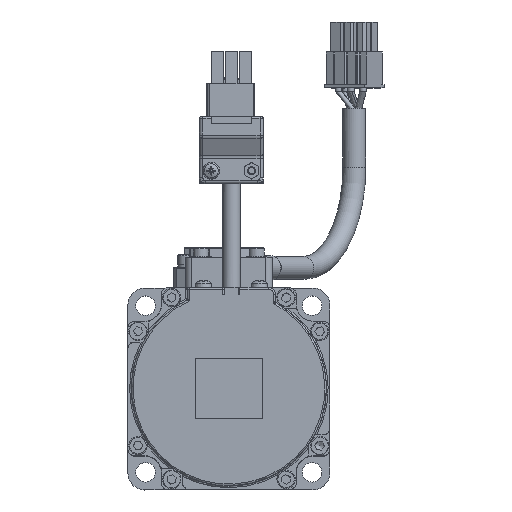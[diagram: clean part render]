
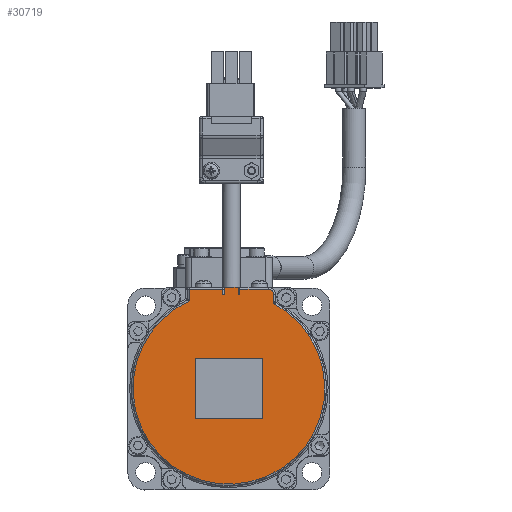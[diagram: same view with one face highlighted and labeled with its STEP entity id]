
A CAD part, top view. The second image highlights one B-rep face of the part: STEP entity #30719.
In plain terms, the highlighted planar face has unit normal (0, 0, 1).
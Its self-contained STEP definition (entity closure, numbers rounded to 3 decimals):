
#989=PLANE('',#33059);
#1446=FACE_BOUND('',#11049,.T.);
#1657=CIRCLE('',#31571,28.5);
#2704=LINE('',#44104,#5355);
#2714=LINE('',#44143,#5365);
#2761=LINE('',#44798,#5412);
#2763=LINE('',#44802,#5414);
#2765=LINE('',#44806,#5416);
#2767=LINE('',#44809,#5418);
#2768=LINE('',#44813,#5419);
#2769=LINE('',#44815,#5420);
#2771=LINE('',#44819,#5422);
#2773=LINE('',#44840,#5424);
#2774=LINE('',#44845,#5425);
#2785=LINE('',#45021,#5436);
#2802=LINE('',#45183,#5453);
#4342=LINE('',#52633,#6993);
#4343=LINE('',#52634,#6994);
#5355=VECTOR('',#34330,2.);
#5365=VECTOR('',#34356,5.);
#5412=VECTOR('',#34569,20.);
#5414=VECTOR('',#34573,18.);
#5416=VECTOR('',#34577,20.);
#5418=VECTOR('',#34581,18.);
#5419=VECTOR('',#34586,5.);
#5420=VECTOR('',#34589,1.5);
#5422=VECTOR('',#34593,8.5);
#5424=VECTOR('',#34599,3.535);
#5425=VECTOR('',#34606,1.5);
#5436=VECTOR('',#34671,10.);
#5453=VECTOR('',#34736,2.767);
#6993=VECTOR('',#39262,2.);
#6994=VECTOR('',#39263,4.);
#9388=FACE_OUTER_BOUND('',#11048,.T.);
#11048=EDGE_LOOP('',(#24887,#24888,#24889,#24890,#24891,#24892,#24893,#24894,
#24895,#24896,#24897,#24898,#24899));
#11049=EDGE_LOOP('',(#24900,#24901,#24902,#24903));
#11784=B_SPLINE_CURVE_WITH_KNOTS('',3,(#45150,#45151,#45152,#45153,#45154,
#45155,#45156,#45157,#45158,#45159,#45160,#45161,#45162,#45163,#45164,#45165,
#45166,#45167,#45168,#45169,#45170,#45171,#45172,#45173,#45174,#45175,#45176,
#45177,#45178,#45179,#45180),.UNSPECIFIED.,.F.,.F.,(4,1,1,1,1,1,1,1,1,1,
1,1,1,1,1,1,1,1,1,1,1,1,1,1,1,1,1,1,4),(0.,0.017,0.034,
0.051,0.069,0.086,0.103,
0.12,0.137,0.154,0.171,
0.189,0.206,0.223,0.24,
0.305,0.37,0.435,0.5,
0.565,0.63,0.695,0.76,
0.82,0.88,0.898,0.94,
0.977,1.),.UNSPECIFIED.);
#12246=VERTEX_POINT('',#44101);
#12247=VERTEX_POINT('',#44103);
#12256=VERTEX_POINT('',#44139);
#12258=VERTEX_POINT('',#44142);
#12360=VERTEX_POINT('',#44760);
#12363=VERTEX_POINT('',#44795);
#12364=VERTEX_POINT('',#44797);
#12365=VERTEX_POINT('',#44801);
#12366=VERTEX_POINT('',#44805);
#12367=VERTEX_POINT('',#44811);
#12368=VERTEX_POINT('',#44818);
#12371=VERTEX_POINT('',#44825);
#12372=VERTEX_POINT('',#44839);
#12373=VERTEX_POINT('',#44843);
#12385=VERTEX_POINT('',#44983);
#12399=VERTEX_POINT('',#45149);
#13925=VERTEX_POINT('',#52632);
#15181=EDGE_CURVE('',#12247,#12246,#2704,.F.);
#15196=EDGE_CURVE('',#12256,#12258,#2714,.F.);
#15320=EDGE_CURVE('',#12363,#12364,#2761,.T.);
#15322=EDGE_CURVE('',#12364,#12365,#2763,.F.);
#15324=EDGE_CURVE('',#12365,#12366,#2765,.F.);
#15326=EDGE_CURVE('',#12366,#12363,#2767,.T.);
#15328=EDGE_CURVE('',#12367,#12246,#2768,.F.);
#15329=EDGE_CURVE('',#12258,#12360,#2769,.T.);
#15331=EDGE_CURVE('',#12360,#12368,#2771,.F.);
#15335=EDGE_CURVE('',#12371,#12372,#2773,.T.);
#15338=EDGE_CURVE('',#12373,#12367,#2774,.F.);
#15368=EDGE_CURVE('',#12372,#12373,#2785,.F.);
#15400=EDGE_CURVE('',#12368,#12399,#11784,.T.);
#15402=EDGE_CURVE('',#12399,#12385,#2802,.F.);
#15410=EDGE_CURVE('',#12385,#12371,#1657,.T.);
#17776=EDGE_CURVE('',#12256,#13925,#4342,.T.);
#17777=EDGE_CURVE('',#12247,#13925,#4343,.F.);
#24887=ORIENTED_EDGE('',*,*,#15328,.F.);
#24888=ORIENTED_EDGE('',*,*,#15338,.F.);
#24889=ORIENTED_EDGE('',*,*,#15368,.F.);
#24890=ORIENTED_EDGE('',*,*,#15335,.F.);
#24891=ORIENTED_EDGE('',*,*,#15410,.F.);
#24892=ORIENTED_EDGE('',*,*,#15402,.F.);
#24893=ORIENTED_EDGE('',*,*,#15400,.F.);
#24894=ORIENTED_EDGE('',*,*,#15331,.F.);
#24895=ORIENTED_EDGE('',*,*,#15329,.F.);
#24896=ORIENTED_EDGE('',*,*,#15196,.F.);
#24897=ORIENTED_EDGE('',*,*,#17776,.T.);
#24898=ORIENTED_EDGE('',*,*,#17777,.F.);
#24899=ORIENTED_EDGE('',*,*,#15181,.T.);
#24900=ORIENTED_EDGE('',*,*,#15324,.F.);
#24901=ORIENTED_EDGE('',*,*,#15322,.F.);
#24902=ORIENTED_EDGE('',*,*,#15320,.F.);
#24903=ORIENTED_EDGE('',*,*,#15326,.F.);
#30719=ADVANCED_FACE('',(#9388,#1446),#989,.T.);
#31571=AXIS2_PLACEMENT_3D('',#45195,#34752,#34753);
#33059=AXIS2_PLACEMENT_3D('',#52631,#39260,#39261);
#34330=DIRECTION('',(0.,1.,0.));
#34356=DIRECTION('',(-1.,0.,0.));
#34569=DIRECTION('',(-1.,0.,0.));
#34573=DIRECTION('',(0.,1.,0.));
#34577=DIRECTION('',(-1.,0.,0.));
#34581=DIRECTION('',(0.,1.,0.));
#34586=DIRECTION('',(-1.,0.,0.));
#34589=DIRECTION('',(0.,1.,0.));
#34593=DIRECTION('',(-1.,0.,0.));
#34599=DIRECTION('',(0.,1.,0.));
#34606=DIRECTION('',(0.,1.,0.));
#34671=DIRECTION('',(-1.,0.,0.));
#34736=DIRECTION('',(0.,1.,0.));
#34752=DIRECTION('center_axis',(0.,0.,
-1.));
#34753=DIRECTION('ref_axis',(-1.,0.,0.));
#39260=DIRECTION('center_axis',(0.,0.,
1.));
#39261=DIRECTION('ref_axis',(0.,1.,0.));
#39262=DIRECTION('',(0.,1.,0.));
#39263=DIRECTION('',(-1.,0.,0.));
#44101=CARTESIAN_POINT('',(-2.063,-3.499,92.287));
#44103=CARTESIAN_POINT('',(-2.063,-1.538,92.287));
#44104=CARTESIAN_POINT('',(-2.063,-3.538,92.287));
#44139=CARTESIAN_POINT('',(1.937,-3.499,92.287));
#44142=CARTESIAN_POINT('',(2.437,-3.499,92.287));
#44143=CARTESIAN_POINT('',(2.437,-3.499,92.287));
#44760=CARTESIAN_POINT('',(2.437,-1.999,92.287));
#44795=CARTESIAN_POINT('',(9.187,-22.499,92.287));
#44797=CARTESIAN_POINT('',(-10.813,-22.499,92.287));
#44798=CARTESIAN_POINT('',(9.187,-22.499,92.287));
#44801=CARTESIAN_POINT('',(-10.813,-40.499,92.287));
#44802=CARTESIAN_POINT('',(-10.813,-40.499,92.287));
#44805=CARTESIAN_POINT('',(9.187,-40.499,92.287));
#44806=CARTESIAN_POINT('',(9.187,-40.499,92.287));
#44809=CARTESIAN_POINT('',(9.187,-40.499,92.287));
#44811=CARTESIAN_POINT('',(-2.563,-3.499,92.287));
#44813=CARTESIAN_POINT('',(2.437,-3.499,92.287));
#44815=CARTESIAN_POINT('',(2.437,-3.499,92.287));
#44818=CARTESIAN_POINT('',(10.937,-1.999,92.287));
#44819=CARTESIAN_POINT('',(10.937,-1.999,92.287));
#44825=CARTESIAN_POINT('',(-12.563,-5.534,92.287));
#44839=CARTESIAN_POINT('',(-12.563,-1.999,92.287));
#44840=CARTESIAN_POINT('',(-12.563,-5.534,92.287));
#44843=CARTESIAN_POINT('',(-2.563,-1.999,92.287));
#44845=CARTESIAN_POINT('',(-2.563,-3.499,92.287));
#44983=CARTESIAN_POINT('',(12.437,-6.266,92.287));
#45021=CARTESIAN_POINT('',(-2.563,-1.999,92.287));
#45149=CARTESIAN_POINT('',(12.437,-3.499,92.287));
#45150=CARTESIAN_POINT('Ctrl Pts',(10.937,-1.999,92.287));
#45151=CARTESIAN_POINT('Ctrl Pts',(10.95,-1.999,92.287));
#45152=CARTESIAN_POINT('Ctrl Pts',(10.977,-1.999,92.287));
#45153=CARTESIAN_POINT('Ctrl Pts',(11.018,-2.001,92.287));
#45154=CARTESIAN_POINT('Ctrl Pts',(11.058,-2.004,92.287));
#45155=CARTESIAN_POINT('Ctrl Pts',(11.098,-2.007,92.287));
#45156=CARTESIAN_POINT('Ctrl Pts',(11.138,-2.012,92.287));
#45157=CARTESIAN_POINT('Ctrl Pts',(11.178,-2.018,92.287));
#45158=CARTESIAN_POINT('Ctrl Pts',(11.218,-2.025,92.287));
#45159=CARTESIAN_POINT('Ctrl Pts',(11.258,-2.033,92.287));
#45160=CARTESIAN_POINT('Ctrl Pts',(11.297,-2.042,92.287));
#45161=CARTESIAN_POINT('Ctrl Pts',(11.336,-2.053,92.287));
#45162=CARTESIAN_POINT('Ctrl Pts',(11.375,-2.064,92.287));
#45163=CARTESIAN_POINT('Ctrl Pts',(11.413,-2.076,92.287));
#45164=CARTESIAN_POINT('Ctrl Pts',(11.451,-2.09,92.287));
#45165=CARTESIAN_POINT('Ctrl Pts',(11.524,-2.117,92.287));
#45166=CARTESIAN_POINT('Ctrl Pts',(11.63,-2.165,92.287));
#45167=CARTESIAN_POINT('Ctrl Pts',(11.762,-2.243,92.287));
#45168=CARTESIAN_POINT('Ctrl Pts',(11.886,-2.333,92.287));
#45169=CARTESIAN_POINT('Ctrl Pts',(11.999,-2.437,92.287));
#45170=CARTESIAN_POINT('Ctrl Pts',(12.103,-2.55,92.287));
#45171=CARTESIAN_POINT('Ctrl Pts',(12.193,-2.674,92.287));
#45172=CARTESIAN_POINT('Ctrl Pts',(12.271,-2.806,92.287));
#45173=CARTESIAN_POINT('Ctrl Pts',(12.332,-2.942,92.287));
#45174=CARTESIAN_POINT('Ctrl Pts',(12.379,-3.08,92.287));
#45175=CARTESIAN_POINT('Ctrl Pts',(12.405,-3.185,92.287));
#45176=CARTESIAN_POINT('Ctrl Pts',(12.421,-3.278,92.287));
#45177=CARTESIAN_POINT('Ctrl Pts',(12.431,-3.353,92.287));
#45178=CARTESIAN_POINT('Ctrl Pts',(12.436,-3.433,92.287));
#45179=CARTESIAN_POINT('Ctrl Pts',(12.437,-3.481,92.287));
#45180=CARTESIAN_POINT('Ctrl Pts',(12.437,-3.499,92.287));
#45183=CARTESIAN_POINT('',(12.437,-6.266,92.287));
#45195=CARTESIAN_POINT('Origin',(-0.813,-31.499,92.287));
#52631=CARTESIAN_POINT('Origin',(-0.063,-2.538,
92.287));
#52632=CARTESIAN_POINT('',(1.937,-1.538,92.287));
#52633=CARTESIAN_POINT('',(1.937,-3.538,92.287));
#52634=CARTESIAN_POINT('',(1.937,-1.538,92.287));
